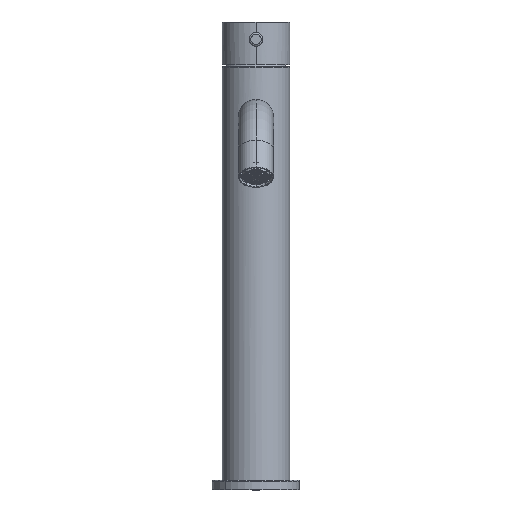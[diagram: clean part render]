
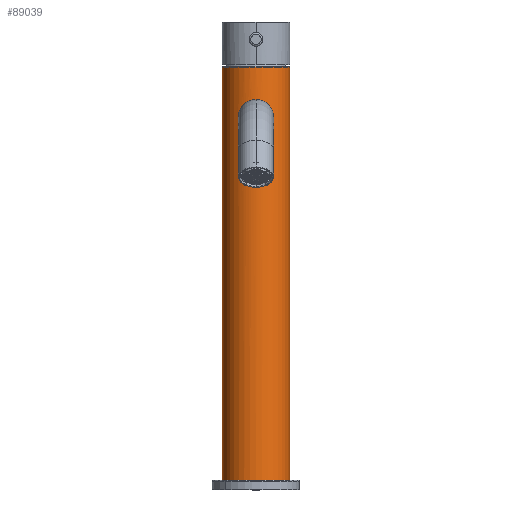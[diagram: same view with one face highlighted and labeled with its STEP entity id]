
A CAD part, top view. The second image highlights one B-rep face of the part: STEP entity #89039.
In plain terms, the highlighted cylindrical face has radius 17.35 mm (diameter 34.7 mm), a partial arc.
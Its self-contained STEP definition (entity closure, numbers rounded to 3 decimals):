
#37420=CARTESIAN_POINT('',(0.,216.7,0.));
#37421=DIRECTION('',(0.,-1.,0.));
#37422=DIRECTION('',(1.,0.,0.));
#37423=AXIS2_PLACEMENT_3D('',#37420,#37421,#37422);
#37425=CARTESIAN_POINT('',(0.,4.3,0.));
#37426=DIRECTION('',(0.,-1.,0.));
#37427=DIRECTION('',(1.,0.,0.));
#37428=AXIS2_PLACEMENT_3D('',#37425,#37426,#37427);
#37430=CARTESIAN_POINT('',(0.,200.1,17.35));
#37431=CARTESIAN_POINT('',(0.24,200.1,17.35));
#37432=CARTESIAN_POINT('',(0.719,200.081,
17.34));
#37433=CARTESIAN_POINT('',(1.44,199.995,17.295));
#37434=CARTESIAN_POINT('',(2.154,199.852,17.221));
#37435=CARTESIAN_POINT('',(2.864,199.648,17.117));
#37436=CARTESIAN_POINT('',(3.564,199.384,16.985));
#37437=CARTESIAN_POINT('',(4.251,199.058,16.826));
#37438=CARTESIAN_POINT('',(4.919,198.669,16.643));
#37439=CARTESIAN_POINT('',(5.561,198.218,16.439));
#37440=CARTESIAN_POINT('',(6.169,197.705,16.22));
#37441=CARTESIAN_POINT('',(6.732,197.14,15.994));
#37442=CARTESIAN_POINT('',(7.245,196.526,15.768));
#37443=CARTESIAN_POINT('',(7.696,195.877,15.552));
#37444=CARTESIAN_POINT('',(8.084,195.201,15.353));
#37445=CARTESIAN_POINT('',(8.407,194.51,15.178));
#37446=CARTESIAN_POINT('',(8.666,193.811,15.032));
#37447=CARTESIAN_POINT('',(8.863,193.107,14.916));
#37448=CARTESIAN_POINT('',(9.,192.405,14.833));
#37449=CARTESIAN_POINT('',(9.082,191.701,14.783));
#37450=CARTESIAN_POINT('',(9.109,191.,14.766));
#37451=CARTESIAN_POINT('',(9.082,190.299,14.783));
#37452=CARTESIAN_POINT('',(9.,189.595,14.833));
#37453=CARTESIAN_POINT('',(8.862,188.893,14.916));
#37454=CARTESIAN_POINT('',(8.666,188.189,15.032));
#37455=CARTESIAN_POINT('',(8.407,187.489,15.178));
#37456=CARTESIAN_POINT('',(8.085,186.799,15.353));
#37457=CARTESIAN_POINT('',(7.696,186.122,15.552));
#37458=CARTESIAN_POINT('',(7.244,185.474,15.768));
#37459=CARTESIAN_POINT('',(6.732,184.86,15.994));
#37460=CARTESIAN_POINT('',(6.169,184.294,16.22));
#37461=CARTESIAN_POINT('',(5.561,183.782,16.439));
#37462=CARTESIAN_POINT('',(4.919,183.331,16.643));
#37463=CARTESIAN_POINT('',(4.251,182.942,16.826));
#37464=CARTESIAN_POINT('',(3.563,182.615,16.985));
#37465=CARTESIAN_POINT('',(2.864,182.352,17.117));
#37466=CARTESIAN_POINT('',(2.153,182.148,17.221));
#37467=CARTESIAN_POINT('',(1.439,182.005,17.295));
#37468=CARTESIAN_POINT('',(0.719,181.919,
17.34));
#37469=CARTESIAN_POINT('',(0.24,181.9,17.35));
#37470=CARTESIAN_POINT('',(0.,181.9,17.35));
#37472=CARTESIAN_POINT('',(0.,181.9,17.35));
#37473=CARTESIAN_POINT('',(-0.24,181.9,17.35));
#37474=CARTESIAN_POINT('',(-0.719,181.919,
17.34));
#37475=CARTESIAN_POINT('',(-1.44,182.005,
17.295));
#37476=CARTESIAN_POINT('',(-2.154,182.148,
17.221));
#37477=CARTESIAN_POINT('',(-2.864,182.352,
17.117));
#37478=CARTESIAN_POINT('',(-3.564,182.616,
16.985));
#37479=CARTESIAN_POINT('',(-4.251,182.942,
16.826));
#37480=CARTESIAN_POINT('',(-4.919,183.331,
16.643));
#37481=CARTESIAN_POINT('',(-5.561,183.782,
16.439));
#37482=CARTESIAN_POINT('',(-6.169,184.294,
16.22));
#37483=CARTESIAN_POINT('',(-6.732,184.86,
15.994));
#37484=CARTESIAN_POINT('',(-7.245,185.474,
15.768));
#37485=CARTESIAN_POINT('',(-7.696,186.123,
15.552));
#37486=CARTESIAN_POINT('',(-8.084,186.799,
15.353));
#37487=CARTESIAN_POINT('',(-8.407,187.49,
15.178));
#37488=CARTESIAN_POINT('',(-8.666,188.189,
15.032));
#37489=CARTESIAN_POINT('',(-8.863,188.893,
14.916));
#37490=CARTESIAN_POINT('',(-9.,189.595,
14.833));
#37491=CARTESIAN_POINT('',(-9.082,190.299,
14.783));
#37492=CARTESIAN_POINT('',(-9.109,191.,
14.766));
#37493=CARTESIAN_POINT('',(-9.082,191.701,
14.783));
#37494=CARTESIAN_POINT('',(-9.,192.405,
14.833));
#37495=CARTESIAN_POINT('',(-8.862,193.107,
14.916));
#37496=CARTESIAN_POINT('',(-8.666,193.811,
15.032));
#37497=CARTESIAN_POINT('',(-8.407,194.511,
15.178));
#37498=CARTESIAN_POINT('',(-8.084,195.201,
15.353));
#37499=CARTESIAN_POINT('',(-7.696,195.878,
15.552));
#37500=CARTESIAN_POINT('',(-7.244,196.526,
15.768));
#37501=CARTESIAN_POINT('',(-6.732,197.14,
15.994));
#37502=CARTESIAN_POINT('',(-6.169,197.706,
16.22));
#37503=CARTESIAN_POINT('',(-5.56,198.218,
16.439));
#37504=CARTESIAN_POINT('',(-4.919,198.669,
16.643));
#37505=CARTESIAN_POINT('',(-4.251,199.058,
16.826));
#37506=CARTESIAN_POINT('',(-3.563,199.385,
16.985));
#37507=CARTESIAN_POINT('',(-2.864,199.648,
17.117));
#37508=CARTESIAN_POINT('',(-2.153,199.852,
17.221));
#37509=CARTESIAN_POINT('',(-1.439,199.995,
17.295));
#37510=CARTESIAN_POINT('',(-0.719,200.081,
17.34));
#37511=CARTESIAN_POINT('',(-0.24,200.1,17.35));
#37512=CARTESIAN_POINT('',(0.,200.1,17.35));
#37529=DIRECTION('',(0.,-1.,0.));
#37530=VECTOR('',#37529,212.4);
#37531=CARTESIAN_POINT('',(-17.35,216.7,0.));
#37532=LINE('',#37531,#37530);
#37538=DIRECTION('',(0.,-1.,0.));
#37539=VECTOR('',#37538,212.4);
#37540=CARTESIAN_POINT('',(17.35,216.7,0.));
#37541=LINE('',#37540,#37539);
#47758=VERTEX_POINT('',#37430);
#47759=VERTEX_POINT('',#37470);
#47788=CARTESIAN_POINT('',(-17.35,216.7,0.));
#47789=CARTESIAN_POINT('',(17.35,216.7,0.));
#47790=VERTEX_POINT('',#47788);
#47791=VERTEX_POINT('',#47789);
#47796=CARTESIAN_POINT('',(-17.35,4.3,0.));
#47797=CARTESIAN_POINT('',(17.35,4.3,0.));
#47798=VERTEX_POINT('',#47796);
#47799=VERTEX_POINT('',#47797);
#89019=CARTESIAN_POINT('',(0.,-6.65,0.));
#89020=DIRECTION('',(0.,1.,0.));
#89021=DIRECTION('',(1.,0.,0.));
#89022=AXIS2_PLACEMENT_3D('',#89019,#89020,#89021);
#89023=CYLINDRICAL_SURFACE('',#89022,17.35);
#89025=ORIENTED_EDGE('',*,*,#89024,.F.);
#89027=ORIENTED_EDGE('',*,*,#89026,.T.);
#89029=ORIENTED_EDGE('',*,*,#89028,.T.);
#89031=ORIENTED_EDGE('',*,*,#89030,.F.);
#89032=EDGE_LOOP('',(#89025,#89027,#89029,#89031));
#89033=FACE_OUTER_BOUND('',#89032,.F.);
#89035=ORIENTED_EDGE('',*,*,#89034,.F.);
#89036=ORIENTED_EDGE('',*,*,#89009,.F.);
#89037=EDGE_LOOP('',(#89035,#89036));
#89038=FACE_BOUND('',#89037,.F.);
#89039=ADVANCED_FACE('',(#89033,#89038),#89023,.T.);
#37424=CIRCLE('',#37423,17.35);
#37429=CIRCLE('',#37428,17.35);
#37471=B_SPLINE_CURVE_WITH_KNOTS('',3,(#37430,#37431,#37432,#37433,#37434,
#37435,#37436,#37437,#37438,#37439,#37440,#37441,#37442,#37443,#37444,#37445,
#37446,#37447,#37448,#37449,#37450,#37451,#37452,#37453,#37454,#37455,#37456,
#37457,#37458,#37459,#37460,#37461,#37462,#37463,#37464,#37465,#37466,#37467,
#37468,#37469,#37470),.UNSPECIFIED.,.F.,.F.,(4,1,1,1,1,1,1,1,1,1,1,1,1,1,1,1,1,
1,1,1,1,1,1,1,1,1,1,1,1,1,1,1,1,1,1,1,1,1,4),(0.,0.026,
0.053,0.079,0.105,0.132,
0.158,0.184,0.211,0.237,
0.263,0.289,0.316,0.342,
0.368,0.395,0.421,0.447,
0.474,0.5,0.526,0.553,0.579,
0.605,0.632,0.658,0.684,
0.711,0.737,0.763,0.789,
0.816,0.842,0.868,0.895,
0.921,0.947,0.974,1.),.UNSPECIFIED.);
#37513=B_SPLINE_CURVE_WITH_KNOTS('',3,(#37472,#37473,#37474,#37475,#37476,
#37477,#37478,#37479,#37480,#37481,#37482,#37483,#37484,#37485,#37486,#37487,
#37488,#37489,#37490,#37491,#37492,#37493,#37494,#37495,#37496,#37497,#37498,
#37499,#37500,#37501,#37502,#37503,#37504,#37505,#37506,#37507,#37508,#37509,
#37510,#37511,#37512),.UNSPECIFIED.,.F.,.F.,(4,1,1,1,1,1,1,1,1,1,1,1,1,1,1,1,1,
1,1,1,1,1,1,1,1,1,1,1,1,1,1,1,1,1,1,1,1,1,4),(0.,0.026,
0.053,0.079,0.105,0.132,
0.158,0.184,0.211,0.237,
0.263,0.289,0.316,0.342,
0.368,0.395,0.421,0.447,
0.474,0.5,0.526,0.553,0.579,
0.605,0.632,0.658,0.684,
0.711,0.737,0.763,0.789,
0.816,0.842,0.868,0.895,
0.921,0.947,0.974,1.),.UNSPECIFIED.);
#89009=EDGE_CURVE('',#47759,#47758,#37513,.T.);
#89024=EDGE_CURVE('',#47791,#47790,#37424,.T.);
#89026=EDGE_CURVE('',#47791,#47799,#37541,.T.);
#89028=EDGE_CURVE('',#47799,#47798,#37429,.T.);
#89030=EDGE_CURVE('',#47790,#47798,#37532,.T.);
#89034=EDGE_CURVE('',#47758,#47759,#37471,.T.);
